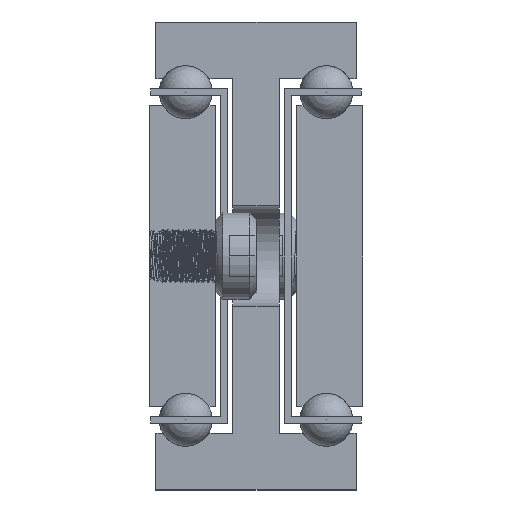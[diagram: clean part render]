
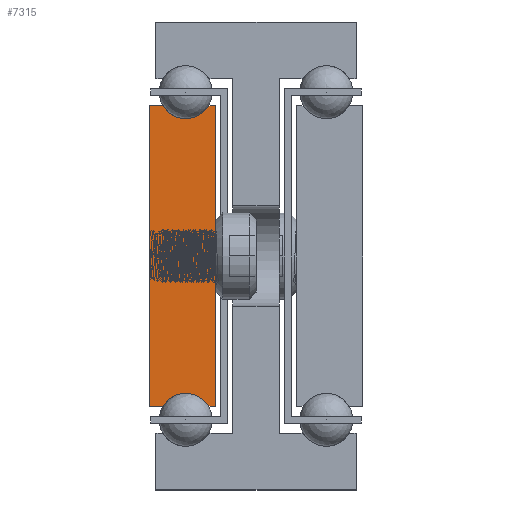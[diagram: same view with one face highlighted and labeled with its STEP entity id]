
A CAD part, front view. The second image highlights one B-rep face of the part: STEP entity #7315.
In plain terms, the highlighted planar face has unit normal (0, -1, 0).
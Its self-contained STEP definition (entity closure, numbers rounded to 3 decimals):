
#1205=CIRCLE('',#7883,4.);
#1207=CIRCLE('',#7889,4.);
#1849=FACE_OUTER_BOUND('',#2325,.T.);
#2325=EDGE_LOOP('',(#5798,#5799,#5800,#5801,#5802,#5803,#5804,#5805));
#3144=LINE('',#98103,#3356);
#3147=LINE('',#98109,#3359);
#3151=LINE('',#98121,#3363);
#3154=LINE('',#98127,#3366);
#3157=LINE('',#98133,#3369);
#3161=LINE('',#98143,#3373);
#3356=VECTOR('',#8842,1.);
#3359=VECTOR('',#8847,1.);
#3363=VECTOR('',#8859,1.);
#3366=VECTOR('',#8864,1.);
#3369=VECTOR('',#8869,1.);
#3373=VECTOR('',#8881,1.);
#3656=VERTEX_POINT('',#98100);
#3657=VERTEX_POINT('',#98102);
#3659=VERTEX_POINT('',#98108);
#3661=VERTEX_POINT('',#98114);
#3663=VERTEX_POINT('',#98120);
#3665=VERTEX_POINT('',#98126);
#3667=VERTEX_POINT('',#98132);
#3669=VERTEX_POINT('',#98138);
#4590=EDGE_CURVE('',#3657,#3656,#3144,.T.);
#4593=EDGE_CURVE('',#3659,#3657,#3147,.T.);
#4596=EDGE_CURVE('',#3661,#3659,#1205,.T.);
#4599=EDGE_CURVE('',#3663,#3661,#3151,.T.);
#4602=EDGE_CURVE('',#3665,#3663,#3154,.T.);
#4605=EDGE_CURVE('',#3667,#3665,#3157,.T.);
#4608=EDGE_CURVE('',#3669,#3667,#1207,.T.);
#4611=EDGE_CURVE('',#3656,#3669,#3161,.T.);
#5798=ORIENTED_EDGE('',*,*,#4611,.T.);
#5799=ORIENTED_EDGE('',*,*,#4608,.T.);
#5800=ORIENTED_EDGE('',*,*,#4605,.T.);
#5801=ORIENTED_EDGE('',*,*,#4602,.T.);
#5802=ORIENTED_EDGE('',*,*,#4599,.T.);
#5803=ORIENTED_EDGE('',*,*,#4596,.T.);
#5804=ORIENTED_EDGE('',*,*,#4593,.T.);
#5805=ORIENTED_EDGE('',*,*,#4590,.T.);
#7169=PLANE('',#7892);
#7315=ADVANCED_FACE('',(#1849),#7169,.T.);
#7883=AXIS2_PLACEMENT_3D('',#98115,#8853,#8854);
#7889=AXIS2_PLACEMENT_3D('',#98139,#8875,#8876);
#7892=AXIS2_PLACEMENT_3D('',#98145,#8884,#8885);
#8842=DIRECTION('',(0.,0.,-1.));
#8847=DIRECTION('',(-1.,0.,0.));
#8853=DIRECTION('center_axis',(0.,1.,0.));
#8854=DIRECTION('ref_axis',(-0.866,0.,-0.5));
#8859=DIRECTION('',(-1.,0.,0.));
#8864=DIRECTION('',(0.,0.,1.));
#8869=DIRECTION('',(1.,0.,0.));
#8875=DIRECTION('center_axis',(0.,1.,0.));
#8876=DIRECTION('ref_axis',(0.866,0.,0.5));
#8881=DIRECTION('',(1.,0.,0.));
#8884=DIRECTION('center_axis',(0.,-1.,0.));
#8885=DIRECTION('ref_axis',(1.,0.,0.));
#98100=CARTESIAN_POINT('',(-1434.13,-1989.858,-57.5));
#98102=CARTESIAN_POINT('',(-1434.13,-1989.858,-12.5));
#98103=CARTESIAN_POINT('',(-1434.13,-1989.858,-57.5));
#98108=CARTESIAN_POINT('',(-1432.094,-1989.858,-12.5));
#98109=CARTESIAN_POINT('',(-1434.13,-1989.858,-12.5));
#98114=CARTESIAN_POINT('',(-1425.166,-1989.858,-12.5));
#98115=CARTESIAN_POINT('Origin',(-1428.63,-1989.858,-10.5));
#98120=CARTESIAN_POINT('',(-1424.13,-1989.858,-12.5));
#98121=CARTESIAN_POINT('',(-1425.166,-1989.858,-12.5));
#98126=CARTESIAN_POINT('',(-1424.13,-1989.858,-57.5));
#98127=CARTESIAN_POINT('',(-1424.13,-1989.858,-12.5));
#98132=CARTESIAN_POINT('',(-1425.166,-1989.858,-57.5));
#98133=CARTESIAN_POINT('',(-1424.13,-1989.858,-57.5));
#98138=CARTESIAN_POINT('',(-1432.094,-1989.858,-57.5));
#98139=CARTESIAN_POINT('Origin',(-1428.63,-1989.858,-59.5));
#98143=CARTESIAN_POINT('',(-1432.094,-1989.858,-57.5));
#98145=CARTESIAN_POINT('Origin',(-1429.136,-1989.858,-35.));
